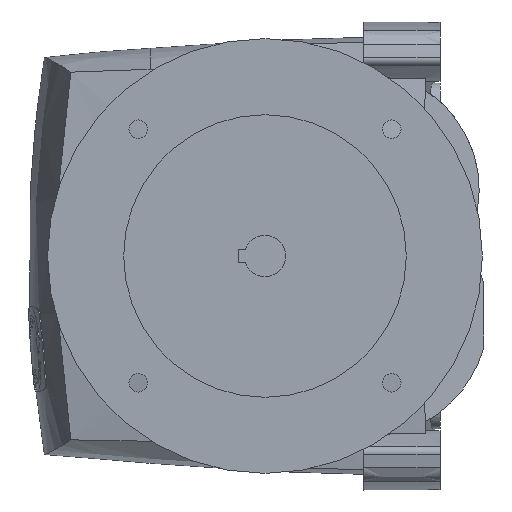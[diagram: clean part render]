
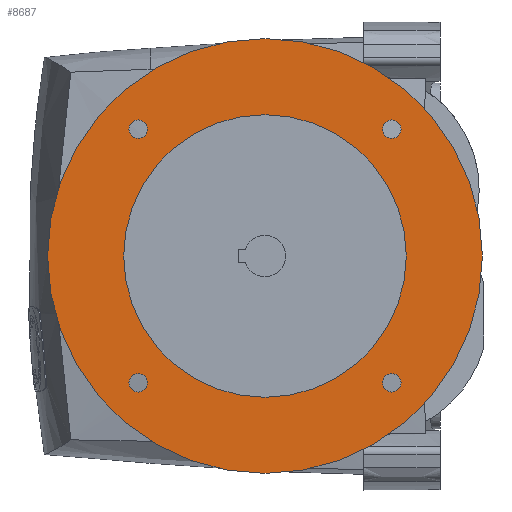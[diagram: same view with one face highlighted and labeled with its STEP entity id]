
A CAD part, left-side view. The second image highlights one B-rep face of the part: STEP entity #8687.
In plain terms, the highlighted planar face has unit normal (-1, 0, 0).
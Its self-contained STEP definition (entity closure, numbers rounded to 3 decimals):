
#838=CARTESIAN_POINT('',(-146.5,43.164,-58.336));
#839=DIRECTION('',(1.,0.,0.));
#840=DIRECTION('',(0.,-1.,0.));
#841=AXIS2_PLACEMENT_3D('',#838,#839,#840);
#843=CARTESIAN_POINT('',(-146.5,43.164,-58.336));
#844=DIRECTION('',(1.,0.,0.));
#845=DIRECTION('',(0.,1.,0.));
#846=AXIS2_PLACEMENT_3D('',#843,#844,#845);
#848=CARTESIAN_POINT('',(-146.5,43.164,58.336));
#849=DIRECTION('',(1.,0.,0.));
#850=DIRECTION('',(0.,-1.,0.));
#851=AXIS2_PLACEMENT_3D('',#848,#849,#850);
#853=CARTESIAN_POINT('',(-146.5,43.164,58.336));
#854=DIRECTION('',(1.,0.,0.));
#855=DIRECTION('',(0.,1.,0.));
#856=AXIS2_PLACEMENT_3D('',#853,#854,#855);
#858=CARTESIAN_POINT('',(-146.5,159.836,58.336));
#859=DIRECTION('',(1.,0.,0.));
#860=DIRECTION('',(0.,-1.,0.));
#861=AXIS2_PLACEMENT_3D('',#858,#859,#860);
#863=CARTESIAN_POINT('',(-146.5,159.836,58.336));
#864=DIRECTION('',(1.,0.,0.));
#865=DIRECTION('',(0.,1.,0.));
#866=AXIS2_PLACEMENT_3D('',#863,#864,#865);
#868=CARTESIAN_POINT('',(-146.5,159.836,-58.336));
#869=DIRECTION('',(1.,0.,0.));
#870=DIRECTION('',(0.,-1.,0.));
#871=AXIS2_PLACEMENT_3D('',#868,#869,#870);
#873=CARTESIAN_POINT('',(-146.5,159.836,-58.336));
#874=DIRECTION('',(1.,0.,0.));
#875=DIRECTION('',(0.,1.,0.));
#876=AXIS2_PLACEMENT_3D('',#873,#874,#875);
#878=CARTESIAN_POINT('',(-146.5,101.5,0.));
#879=DIRECTION('',(-1.,0.,0.));
#880=DIRECTION('',(0.,0.,-1.));
#881=AXIS2_PLACEMENT_3D('',#878,#879,#880);
#883=CARTESIAN_POINT('',(-146.5,101.5,0.));
#884=DIRECTION('',(-1.,0.,0.));
#885=DIRECTION('',(0.,0.,1.));
#886=AXIS2_PLACEMENT_3D('',#883,#884,#885);
#888=CARTESIAN_POINT('',(-146.5,101.5,0.));
#889=DIRECTION('',(1.,0.,0.));
#890=DIRECTION('',(0.,0.,-1.));
#891=AXIS2_PLACEMENT_3D('',#888,#889,#890);
#893=CARTESIAN_POINT('',(-146.5,101.5,0.));
#894=DIRECTION('',(1.,0.,0.));
#895=DIRECTION('',(0.,0.,1.));
#896=AXIS2_PLACEMENT_3D('',#893,#894,#895);
#6900=CARTESIAN_POINT('',(-146.5,101.5,-99.986));
#6901=CARTESIAN_POINT('',(-146.5,101.5,99.986));
#6902=VERTEX_POINT('',#6900);
#6903=VERTEX_POINT('',#6901);
#6904=CARTESIAN_POINT('',(-146.5,101.5,-65.));
#6905=CARTESIAN_POINT('',(-146.5,101.5,65.));
#6906=VERTEX_POINT('',#6904);
#6907=VERTEX_POINT('',#6905);
#7254=CARTESIAN_POINT('',(-146.5,155.586,58.336));
#7255=CARTESIAN_POINT('',(-146.5,164.086,58.336));
#7256=VERTEX_POINT('',#7254);
#7257=VERTEX_POINT('',#7255);
#7258=CARTESIAN_POINT('',(-146.5,38.914,58.336));
#7259=CARTESIAN_POINT('',(-146.5,47.414,58.336));
#7260=VERTEX_POINT('',#7258);
#7261=VERTEX_POINT('',#7259);
#7262=CARTESIAN_POINT('',(-146.5,155.586,-58.336));
#7263=CARTESIAN_POINT('',(-146.5,164.086,-58.336));
#7264=VERTEX_POINT('',#7262);
#7265=VERTEX_POINT('',#7263);
#7266=CARTESIAN_POINT('',(-146.5,38.914,-58.336));
#7267=CARTESIAN_POINT('',(-146.5,47.414,-58.336));
#7268=VERTEX_POINT('',#7266);
#7269=VERTEX_POINT('',#7267);
#8647=CARTESIAN_POINT('',(-146.5,101.5,0.));
#8648=DIRECTION('',(1.,0.,0.));
#8649=DIRECTION('',(0.,0.,-1.));
#8650=AXIS2_PLACEMENT_3D('',#8647,#8648,#8649);
#8651=PLANE('',#8650);
#8653=ORIENTED_EDGE('',*,*,#8652,.F.);
#8655=ORIENTED_EDGE('',*,*,#8654,.F.);
#8656=EDGE_LOOP('',(#8653,#8655));
#8657=FACE_OUTER_BOUND('',#8656,.F.);
#8658=ORIENTED_EDGE('',*,*,#8637,.F.);
#8660=ORIENTED_EDGE('',*,*,#8659,.F.);
#8661=EDGE_LOOP('',(#8658,#8660));
#8662=FACE_BOUND('',#8661,.F.);
#8664=ORIENTED_EDGE('',*,*,#8663,.F.);
#8666=ORIENTED_EDGE('',*,*,#8665,.F.);
#8667=EDGE_LOOP('',(#8664,#8666));
#8668=FACE_BOUND('',#8667,.F.);
#8670=ORIENTED_EDGE('',*,*,#8669,.F.);
#8672=ORIENTED_EDGE('',*,*,#8671,.F.);
#8673=EDGE_LOOP('',(#8670,#8672));
#8674=FACE_BOUND('',#8673,.F.);
#8676=ORIENTED_EDGE('',*,*,#8675,.F.);
#8678=ORIENTED_EDGE('',*,*,#8677,.F.);
#8679=EDGE_LOOP('',(#8676,#8678));
#8680=FACE_BOUND('',#8679,.F.);
#8682=ORIENTED_EDGE('',*,*,#8681,.F.);
#8684=ORIENTED_EDGE('',*,*,#8683,.F.);
#8685=EDGE_LOOP('',(#8682,#8684));
#8686=FACE_BOUND('',#8685,.F.);
#8687=ADVANCED_FACE('',(#8657,#8662,#8668,#8674,#8680,#8686),#8651,.F.);
#842=CIRCLE('',#841,4.25);
#847=CIRCLE('',#846,4.25);
#852=CIRCLE('',#851,4.25);
#857=CIRCLE('',#856,4.25);
#862=CIRCLE('',#861,4.25);
#867=CIRCLE('',#866,4.25);
#872=CIRCLE('',#871,4.25);
#877=CIRCLE('',#876,4.25);
#882=CIRCLE('',#881,99.986);
#887=CIRCLE('',#886,99.986);
#892=CIRCLE('',#891,65.);
#897=CIRCLE('',#896,65.);
#8637=EDGE_CURVE('',#7268,#7269,#842,.T.);
#8652=EDGE_CURVE('',#6902,#6903,#882,.T.);
#8654=EDGE_CURVE('',#6903,#6902,#887,.T.);
#8659=EDGE_CURVE('',#7269,#7268,#847,.T.);
#8663=EDGE_CURVE('',#7260,#7261,#852,.T.);
#8665=EDGE_CURVE('',#7261,#7260,#857,.T.);
#8669=EDGE_CURVE('',#7256,#7257,#862,.T.);
#8671=EDGE_CURVE('',#7257,#7256,#867,.T.);
#8675=EDGE_CURVE('',#7264,#7265,#872,.T.);
#8677=EDGE_CURVE('',#7265,#7264,#877,.T.);
#8681=EDGE_CURVE('',#6906,#6907,#892,.T.);
#8683=EDGE_CURVE('',#6907,#6906,#897,.T.);
